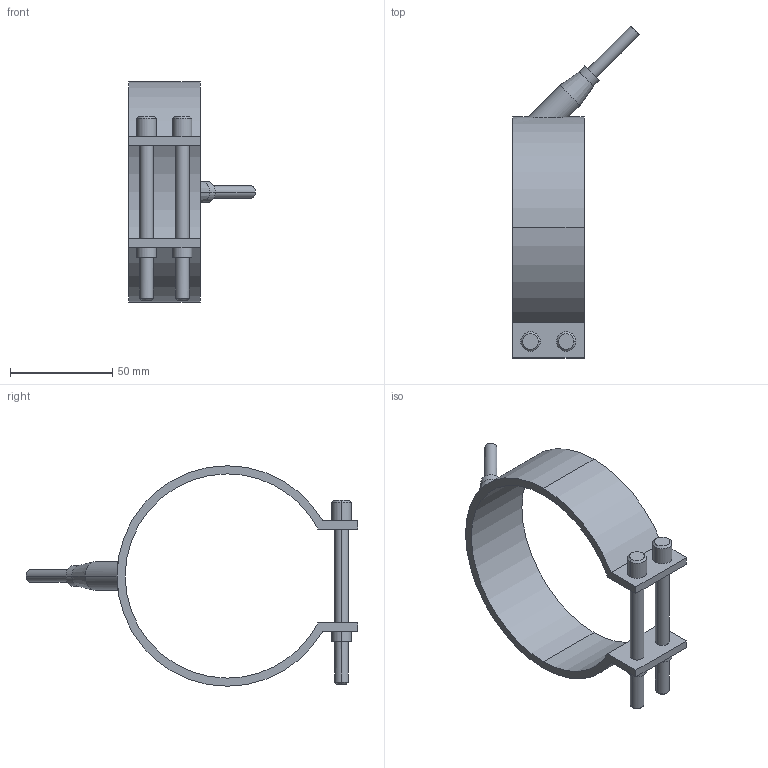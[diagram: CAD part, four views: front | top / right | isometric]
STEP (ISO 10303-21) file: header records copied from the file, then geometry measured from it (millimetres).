
FILE_DESCRIPTION(('CATIA V5 STEP Exchange'),'2;1');
FILE_NAME('C:\Users\Utente\Desktop\IO LAVORO\3D X SITO CF\X SITO\PLASTICA\RF1\29100035.stp','2021-03-29T13:20:15+00:00',('none'),('none'),'CATIA Version 5 Release 20 GA (IN-10)','CATIA V5 STEP AP203','none');
FILE_SCHEMA(('CONFIG_CONTROL_DESIGN'));
Length unit declared in the file: millimetre
Products named in the file (1): 29100035
Bounding box: 62.05 x 162.55 x 108 mm (x, y, z)
Volume: 55144.6 mm3; surface area: 29721.4 mm2
Topology: 1 solids, 1 shells, 54 faces, 121 edges, 77 vertices
Faces by surface type: cylinder 28, plane 16, cone 10
Entity records: 1686 total; most frequent: CARTESIAN_POINT 458, ORIENTED_EDGE 242, DIRECTION 216, EDGE_CURVE 121, AXIS2_PLACEMENT_3D 109, VERTEX_POINT 77, EDGE_LOOP 66, VECTOR 56
